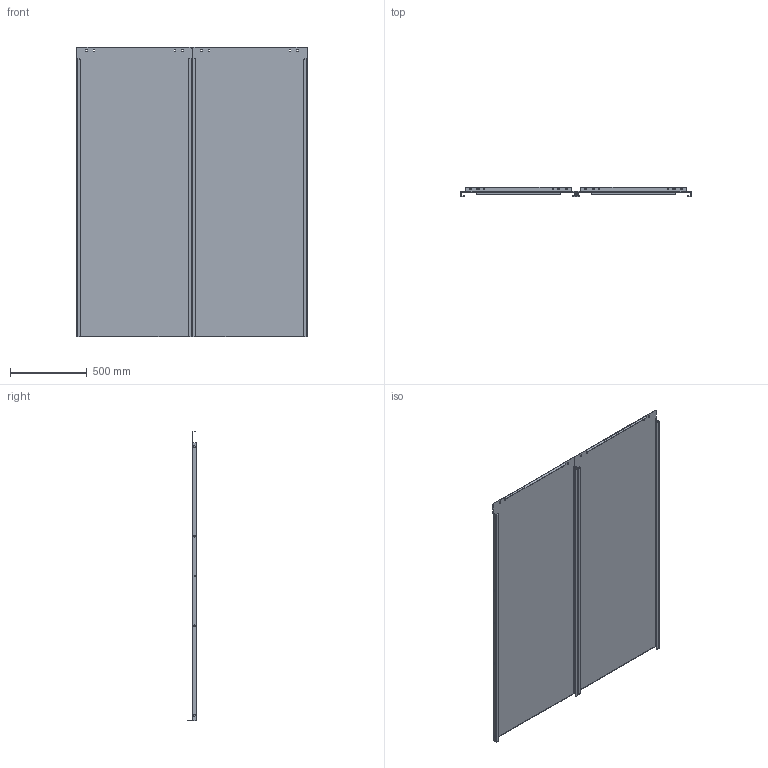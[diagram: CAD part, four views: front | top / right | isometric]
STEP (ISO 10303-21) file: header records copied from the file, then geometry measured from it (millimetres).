
FILE_DESCRIPTION((''),'2;1');
FILE_NAME('MODEL-101_ASM','2014-07-25T',('joelb'),('SAGINAW CONTROL & ENGINEERING'),'PRO/ENGINEER BY PARAMETRIC TECHNOLOGY CORPORATION, 2012070','PRO/ENGINEER BY PARAMETRIC TECHNOLOGY CORPORATION, 2012070','');
FILE_SCHEMA(('AUTOMOTIVE_DESIGN { 1 0 10303 214 1 1 1 1 }'));
Length unit declared in the file: inch
Products named in the file (5): MODEL-101-SUBPANEL; 102496; 100921; 108624_ASM; MODEL-101_ASM
Assembly tree (11 placements, depth 3):
  MODEL-101_ASM
    MODEL-101-SUBPANEL  x2
    108624_ASM
      102496  x4
      100921  x4
Bounding box: 1500 x 63.5 x 1887.5 mm (x, y, z)
Volume: 8520833.7 mm3; surface area: 6483119.2 mm2
Topology: 10 solids, 10 shells, 676 faces, 1564 edges, 912 vertices
Faces by surface type: plane 200, cylinder 188, bspline 120, torus 80, sphere 64, cone 24
Entity records: 11083 total; most frequent: CARTESIAN_POINT 3406, DIRECTION 1230, ORIENTED_EDGE 1148, PRESENTATION_STYLE_ASSIGNMENT 577, STYLED_ITEM 577, CURVE_STYLE 574, EDGE_CURVE 574, AXIS2_PLACEMENT_3D 485
